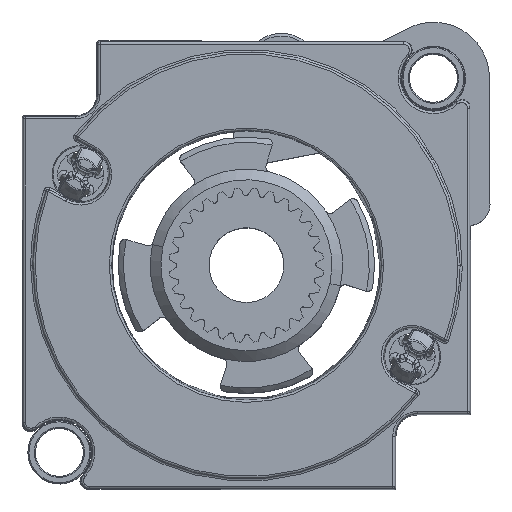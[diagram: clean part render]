
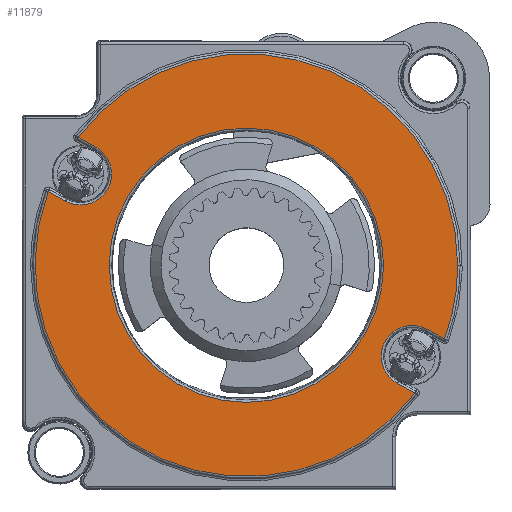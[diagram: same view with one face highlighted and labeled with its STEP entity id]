
A CAD part, top view. The second image highlights one B-rep face of the part: STEP entity #11879.
In plain terms, the highlighted planar face has unit normal (0, 0, 1).
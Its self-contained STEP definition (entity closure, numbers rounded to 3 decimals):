
#787 = CIRCLE ( 'NONE', #13910, 12.834 ) ;
#1963 = EDGE_CURVE ( 'NONE', #19099, #3141, #14094, .T. ) ;
#2693 = DIRECTION ( 'NONE',  ( 0.876, -0.482, 0. ) ) ;
#3069 = VERTEX_POINT ( 'NONE', #48237 ) ;
#3141 = VERTEX_POINT ( 'NONE', #77589 ) ;
#3822 = CARTESIAN_POINT ( 'NONE',  ( 0., 0., 7.85 ) ) ;
#4449 = CIRCLE ( 'NONE', #49425, 2.894 ) ;
#4807 = DIRECTION ( 'NONE',  ( 1., 0., 0. ) ) ;
#5834 = ORIENTED_EDGE ( 'NONE', *, *, #16953, .T. ) ;
#5872 = CARTESIAN_POINT ( 'NONE',  ( 14.116, -11.063, 7.85 ) ) ;
#6242 = DIRECTION ( 'NONE',  ( 1., 0., 0. ) ) ;
#8350 = DIRECTION ( 'NONE',  ( 0., 0., 1. ) ) ;
#9635 = DIRECTION ( 'NONE',  ( 1., 0., 0. ) ) ;
#10101 = CARTESIAN_POINT ( 'NONE',  ( -15.511, 8.527, 7.85 ) ) ;
#10461 = VERTEX_POINT ( 'NONE', #30514 ) ;
#11293 = CIRCLE ( 'NONE', #76796, 2.894 ) ;
#11421 = CARTESIAN_POINT ( 'NONE',  ( 12.834, 0., 7.85 ) ) ;
#11598 = FACE_BOUND ( 'NONE', #39244, .T. ) ;
#11879 = ADVANCED_FACE ( 'NONE', ( #11598, #17336 ), #20275, .T. ) ;
#12517 = ORIENTED_EDGE ( 'NONE', *, *, #34761, .T. ) ;
#13305 = CARTESIAN_POINT ( 'NONE',  ( 1.394, 2.536, 7.85 ) ) ;
#13430 = AXIS2_PLACEMENT_3D ( 'NONE', #62301, #49599, #25456 ) ;
#13910 = AXIS2_PLACEMENT_3D ( 'NONE', #3822, #76475, #70420 ) ;
#14094 = CIRCLE ( 'NONE', #70664, 12.834 ) ;
#14660 = ORIENTED_EDGE ( 'NONE', *, *, #26561, .T. ) ;
#14789 = EDGE_CURVE ( 'NONE', #10461, #40210, #67312, .T. ) ;
#15791 = ORIENTED_EDGE ( 'NONE', *, *, #19991, .T. ) ;
#16385 = EDGE_CURVE ( 'NONE', #26143, #68769, #56678, .T. ) ;
#16953 = EDGE_CURVE ( 'NONE', #73493, #24604, #4449, .T. ) ;
#17211 = LINE ( 'NONE', #74555, #63685 ) ;
#17336 = FACE_OUTER_BOUND ( 'NONE', #20295, .T. ) ;
#17522 = LINE ( 'NONE', #55916, #25137 ) ;
#19099 = VERTEX_POINT ( 'NONE', #11421 ) ;
#19297 = DIRECTION ( 'NONE',  ( 0., 0., -1. ) ) ;
#19544 = CARTESIAN_POINT ( 'NONE',  ( 18.539, -6.889, 7.85 ) ) ;
#19853 = EDGE_CURVE ( 'NONE', #40705, #10461, #78083, .T. ) ;
#19991 = EDGE_CURVE ( 'NONE', #24604, #54533, #17522, .T. ) ;
#20275 = PLANE ( 'NONE',  #63032 ) ;
#20295 = EDGE_LOOP ( 'NONE', ( #15791, #37610, #24385, #12517, #25422, #56873, #20865, #32060, #14660, #5834 ) ) ;
#20389 = AXIS2_PLACEMENT_3D ( 'NONE', #56924, #8350, #68612 ) ;
#20865 = ORIENTED_EDGE ( 'NONE', *, *, #14789, .T. ) ;
#22366 = DIRECTION ( 'NONE',  ( 0., 0., -1. ) ) ;
#24385 = ORIENTED_EDGE ( 'NONE', *, *, #16385, .T. ) ;
#24604 = VERTEX_POINT ( 'NONE', #44773 ) ;
#25137 = VECTOR ( 'NONE', #44568, 1000. ) ;
#25422 = ORIENTED_EDGE ( 'NONE', *, *, #49984, .T. ) ;
#25456 = DIRECTION ( 'NONE',  ( 1., 0., 0. ) ) ;
#25583 = DIRECTION ( 'NONE',  ( 0., 0., 1. ) ) ;
#25848 = DIRECTION ( 'NONE',  ( 1., 0., 0. ) ) ;
#26143 = VERTEX_POINT ( 'NONE', #38757 ) ;
#26561 = EDGE_CURVE ( 'NONE', #49373, #73493, #11293, .T. ) ;
#30514 = CARTESIAN_POINT ( 'NONE',  ( 19.777, 0., 7.85 ) ) ;
#31549 = DIRECTION ( 'NONE',  ( 1., 0., 0. ) ) ;
#32060 = ORIENTED_EDGE ( 'NONE', *, *, #38897, .T. ) ;
#34203 = ORIENTED_EDGE ( 'NONE', *, *, #66021, .T. ) ;
#34761 = EDGE_CURVE ( 'NONE', #68769, #3069, #52703, .T. ) ;
#35765 = VECTOR ( 'NONE', #2693, 1000. ) ;
#37610 = ORIENTED_EDGE ( 'NONE', *, *, #66868, .T. ) ;
#38698 = LINE ( 'NONE', #13305, #35765 ) ;
#38757 = CARTESIAN_POINT ( 'NONE',  ( 15.75, -11.961, 7.85 ) ) ;
#38897 = EDGE_CURVE ( 'NONE', #40210, #49373, #17211, .T. ) ;
#39244 = EDGE_LOOP ( 'NONE', ( #49431, #34203 ) ) ;
#40210 = VERTEX_POINT ( 'NONE', #75033 ) ;
#40705 = VERTEX_POINT ( 'NONE', #19544 ) ;
#42668 = DIRECTION ( 'NONE',  ( 0., 0., -1. ) ) ;
#43496 = CARTESIAN_POINT ( 'NONE',  ( 0., 0., 7.85 ) ) ;
#44568 = DIRECTION ( 'NONE',  ( -0.876, 0.482, 0. ) ) ;
#44773 = CARTESIAN_POINT ( 'NONE',  ( -16.905, 5.99, 7.85 ) ) ;
#46064 = CARTESIAN_POINT ( 'NONE',  ( 0., 0., 7.85 ) ) ;
#48237 = CARTESIAN_POINT ( 'NONE',  ( 16.905, -5.99, 7.85 ) ) ;
#49065 = CIRCLE ( 'NONE', #13430, 19.777 ) ;
#49373 = VERTEX_POINT ( 'NONE', #68481 ) ;
#49425 = AXIS2_PLACEMENT_3D ( 'NONE', #10101, #22366, #4807 ) ;
#49431 = ORIENTED_EDGE ( 'NONE', *, *, #1963, .T. ) ;
#49599 = DIRECTION ( 'NONE',  ( 0., 0., 1. ) ) ;
#49984 = EDGE_CURVE ( 'NONE', #3069, #40705, #38698, .T. ) ;
#52703 = CIRCLE ( 'NONE', #77245, 2.894 ) ;
#54533 = VERTEX_POINT ( 'NONE', #54665 ) ;
#54665 = CARTESIAN_POINT ( 'NONE',  ( -18.539, 6.889, 7.85 ) ) ;
#55093 = CARTESIAN_POINT ( 'NONE',  ( 15.511, -8.527, 7.85 ) ) ;
#55122 = DIRECTION ( 'NONE',  ( 0., 0., 1. ) ) ;
#55186 = AXIS2_PLACEMENT_3D ( 'NONE', #43496, #55122, #67057 ) ;
#55916 = CARTESIAN_POINT ( 'NONE',  ( -1.394, -2.536, 7.85 ) ) ;
#56678 = LINE ( 'NONE', #65753, #70006 ) ;
#56873 = ORIENTED_EDGE ( 'NONE', *, *, #19853, .T. ) ;
#56924 = CARTESIAN_POINT ( 'NONE',  ( 0., 0., 7.85 ) ) ;
#58524 = DIRECTION ( 'NONE',  ( 0., 0., -1. ) ) ;
#62301 = CARTESIAN_POINT ( 'NONE',  ( 0., 0., 7.85 ) ) ;
#63032 = AXIS2_PLACEMENT_3D ( 'NONE', #68813, #25583, #25848 ) ;
#63685 = VECTOR ( 'NONE', #74288, 1000. ) ;
#65511 = DIRECTION ( 'NONE',  ( -0.876, 0.482, 0. ) ) ;
#65753 = CARTESIAN_POINT ( 'NONE',  ( 14.116, -11.063, 7.85 ) ) ;
#66021 = EDGE_CURVE ( 'NONE', #3141, #19099, #787, .T. ) ;
#66868 = EDGE_CURVE ( 'NONE', #54533, #26143, #49065, .T. ) ;
#67057 = DIRECTION ( 'NONE',  ( 1., 0., 0. ) ) ;
#67312 = CIRCLE ( 'NONE', #20389, 19.777 ) ;
#68481 = CARTESIAN_POINT ( 'NONE',  ( -14.116, 11.063, 7.85 ) ) ;
#68612 = DIRECTION ( 'NONE',  ( 1., 0., 0. ) ) ;
#68769 = VERTEX_POINT ( 'NONE', #5872 ) ;
#68813 = CARTESIAN_POINT ( 'NONE',  ( 0., 0., 7.85 ) ) ;
#70006 = VECTOR ( 'NONE', #65511, 1000. ) ;
#70420 = DIRECTION ( 'NONE',  ( 1., 0., 0. ) ) ;
#70664 = AXIS2_PLACEMENT_3D ( 'NONE', #46064, #58524, #9635 ) ;
#73082 = CARTESIAN_POINT ( 'NONE',  ( -15.511, 8.527, 7.85 ) ) ;
#73493 = VERTEX_POINT ( 'NONE', #75391 ) ;
#74288 = DIRECTION ( 'NONE',  ( 0.876, -0.482, 0. ) ) ;
#74555 = CARTESIAN_POINT ( 'NONE',  ( -14.116, 11.063, 7.85 ) ) ;
#75033 = CARTESIAN_POINT ( 'NONE',  ( -15.75, 11.961, 7.85 ) ) ;
#75391 = CARTESIAN_POINT ( 'NONE',  ( -12.616, 8.527, 7.85 ) ) ;
#76475 = DIRECTION ( 'NONE',  ( 0., 0., -1. ) ) ;
#76796 = AXIS2_PLACEMENT_3D ( 'NONE', #73082, #42668, #6242 ) ;
#77245 = AXIS2_PLACEMENT_3D ( 'NONE', #55093, #19297, #31549 ) ;
#77589 = CARTESIAN_POINT ( 'NONE',  ( -12.834, 0., 7.85 ) ) ;
#78083 = CIRCLE ( 'NONE', #55186, 19.777 ) ;
